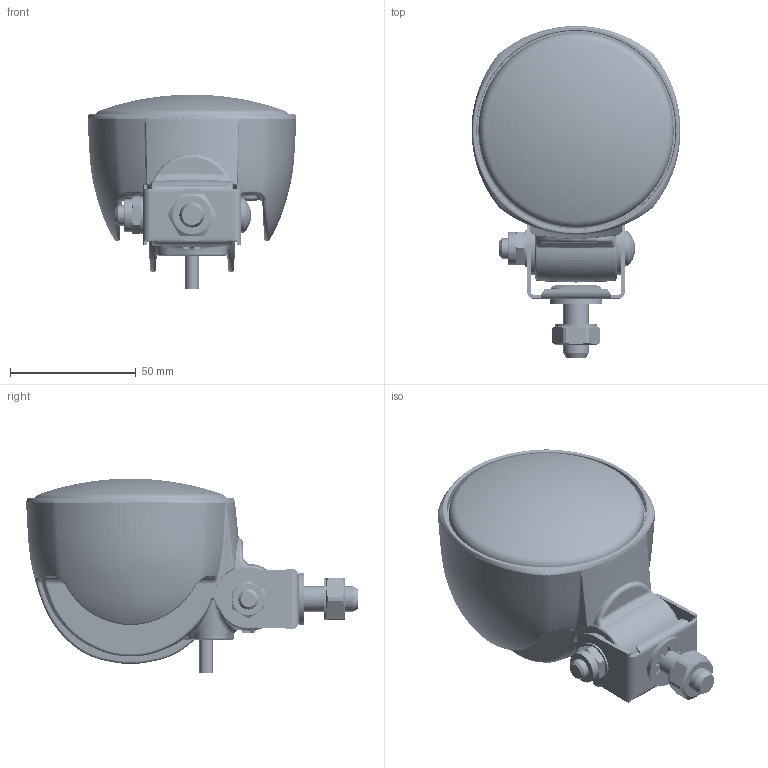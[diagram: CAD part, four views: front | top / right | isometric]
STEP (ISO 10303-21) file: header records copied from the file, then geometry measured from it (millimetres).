
FILE_DESCRIPTION(('HOOPS Exchange Step'),'2;1');
FILE_NAME('C:\Users\moscju1\HELLA GmbH & Co. KGaA\A-SOE-MARKETING TEAM SITE - Documents\SOE_Marketing_Internal\Projects\Microsites\04 PRODUKTE\ADDITIONAL MATERIAL - 3D DATA - mounting instructions\5_Work lamps\3_1_RokLUME_C180\HELLA GmbH & Co.stp','2022-01-21T10:32:16+01:00',('moscju1'),('Unknown organisation'),'HOOPS Exchange 2021.2','HOOPS Exchange','Unknown authorisation');
FILE_SCHEMA( ('AUTOMOTIVE_DESIGN { 1 0 10303 214 1 1 1 1 }') );
Length unit declared in the file: millimetre
Products named in the file (1): 10002969624_D10_001
Bounding box: 83.01 x 131.85 x 77.36 mm (x, y, z)
Surface area: 46510 mm2 (no closed solid volume)
Topology: 0 solids, 285 shells, 49590 faces, 80965 edges, 31174 vertices
Faces by surface type: plane 49590
Entity records: 427929 total; most frequent: DIRECTION 99182, CARTESIAN_POINT 80765, AXIS2_PLACEMENT_3D 49591, PLANE 49590, POLY_LOOP 49590, FACE_OUTER_BOUND 49590, FACE_SURFACE 49590, CLOSED_SHELL 2
